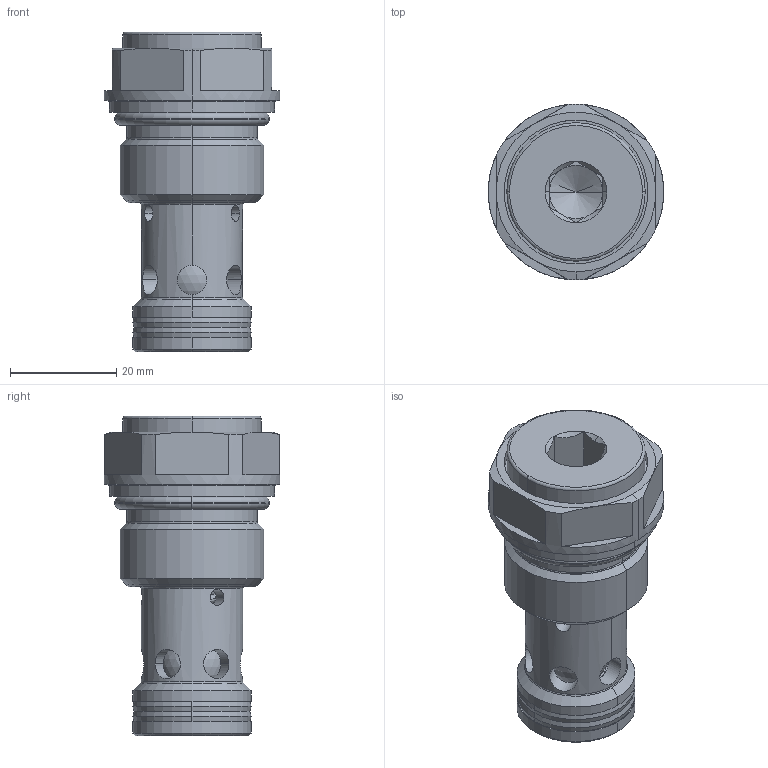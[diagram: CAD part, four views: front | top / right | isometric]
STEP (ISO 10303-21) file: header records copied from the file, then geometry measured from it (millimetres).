
FILE_DESCRIPTION((''),'2;1');
FILE_NAME('40276900_ASM','2019-02-27T',('l.soukupova'),(''),'PRO/ENGINEER BY PARAMETRIC TECHNOLOGY CORPORATION, 2015440','PRO/ENGINEER BY PARAMETRIC TECHNOLOGY CORPORATION, 2015440','');
FILE_SCHEMA(('AUTOMOTIVE_DESIGN { 1 0 10303 214 1 1 1 1 }'));
Length unit declared in the file: millimetre
Products named in the file (8): 1000013779; VSTI_20X1_5_ED; DIN_5401_D13_188888; 1000013827; 24X2_5_NBR90_408871; 27566500_AF0; SSA02222196238C0_341807; 40276900_ASM
Assembly tree (7 placements, depth 2):
  40276900_ASM
    1000013779
    VSTI_20X1_5_ED
    DIN_5401_D13_188888
    1000013827
    24X2_5_NBR90_408871
    27566500_AF0
    SSA02222196238C0_341807
Bounding box: 33 x 33 x 60 mm (x, y, z)
Volume: 24898.1 mm3; surface area: 17750.9 mm2
Topology: 7 solids, 10 shells, 215 faces, 526 edges, 349 vertices
Faces by surface type: cylinder 72, cone 53, plane 50, torus 26, bspline 12, sphere 2
Entity records: 15987 total; most frequent: CARTESIAN_POINT 8290, DIRECTION 1149, ORIENTED_EDGE 970, PRESENTATION_STYLE_ASSIGNMENT 590, STYLED_ITEM 561, CURVE_STYLE 537, EDGE_CURVE 494, AXIS2_PLACEMENT_3D 481
